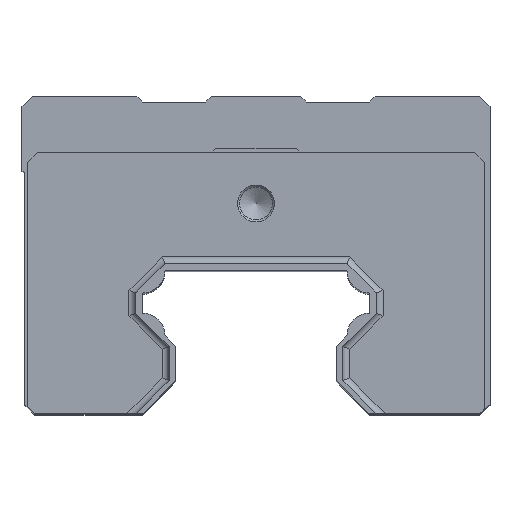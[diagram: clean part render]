
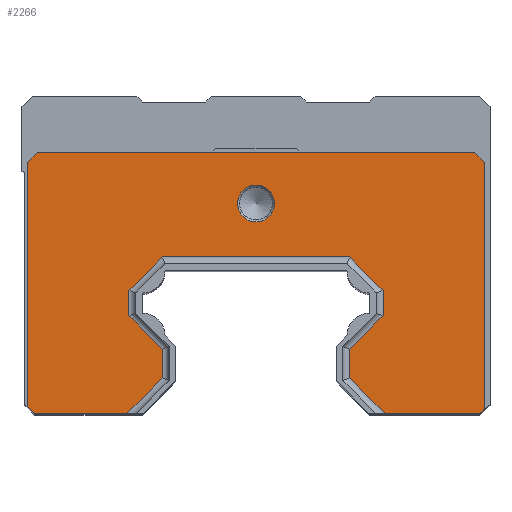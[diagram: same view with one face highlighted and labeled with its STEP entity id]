
A CAD part, top view. The second image highlights one B-rep face of the part: STEP entity #2266.
In plain terms, the highlighted planar face has unit normal (0, 0, 1).
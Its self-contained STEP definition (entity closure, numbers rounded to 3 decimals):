
#39=FACE_BOUND('',#342,.T.);
#45=PLANE('',#2410);
#224=FACE_OUTER_BOUND('',#341,.T.);
#341=EDGE_LOOP('',(#1630,#1631,#1632,#1633,#1634,#1635,#1636,#1637,#1638,
#1639,#1640,#1641,#1642,#1643,#1644,#1645,#1646,#1647,#1648,#1649));
#342=EDGE_LOOP('',(#1650));
#481=LINE('',#3258,#755);
#482=LINE('',#3260,#756);
#483=LINE('',#3262,#757);
#484=LINE('',#3264,#758);
#485=LINE('',#3266,#759);
#486=LINE('',#3268,#760);
#487=LINE('',#3270,#761);
#488=LINE('',#3272,#762);
#489=LINE('',#3274,#763);
#490=LINE('',#3276,#764);
#491=LINE('',#3278,#765);
#492=LINE('',#3280,#766);
#493=LINE('',#3282,#767);
#494=LINE('',#3284,#768);
#495=LINE('',#3286,#769);
#496=LINE('',#3288,#770);
#497=LINE('',#3290,#771);
#498=LINE('',#3292,#772);
#499=LINE('',#3294,#773);
#500=LINE('',#3295,#774);
#755=VECTOR('',#2623,10.);
#756=VECTOR('',#2624,10.);
#757=VECTOR('',#2625,10.);
#758=VECTOR('',#2626,10.);
#759=VECTOR('',#2627,10.);
#760=VECTOR('',#2628,10.);
#761=VECTOR('',#2629,10.);
#762=VECTOR('',#2630,10.);
#763=VECTOR('',#2631,10.);
#764=VECTOR('',#2632,10.);
#765=VECTOR('',#2633,10.);
#766=VECTOR('',#2634,10.);
#767=VECTOR('',#2635,10.);
#768=VECTOR('',#2636,10.);
#769=VECTOR('',#2637,10.);
#770=VECTOR('',#2638,10.);
#771=VECTOR('',#2639,10.);
#772=VECTOR('',#2640,10.);
#773=VECTOR('',#2641,10.);
#774=VECTOR('',#2642,10.);
#1009=CIRCLE('',#2405,2.759);
#1061=VERTEX_POINT('',#3244);
#1065=VERTEX_POINT('',#3256);
#1066=VERTEX_POINT('',#3257);
#1067=VERTEX_POINT('',#3259);
#1068=VERTEX_POINT('',#3261);
#1069=VERTEX_POINT('',#3263);
#1070=VERTEX_POINT('',#3265);
#1071=VERTEX_POINT('',#3267);
#1072=VERTEX_POINT('',#3269);
#1073=VERTEX_POINT('',#3271);
#1074=VERTEX_POINT('',#3273);
#1075=VERTEX_POINT('',#3275);
#1076=VERTEX_POINT('',#3277);
#1077=VERTEX_POINT('',#3279);
#1078=VERTEX_POINT('',#3281);
#1079=VERTEX_POINT('',#3283);
#1080=VERTEX_POINT('',#3285);
#1081=VERTEX_POINT('',#3287);
#1082=VERTEX_POINT('',#3289);
#1083=VERTEX_POINT('',#3291);
#1084=VERTEX_POINT('',#3293);
#1285=EDGE_CURVE('',#1061,#1061,#1009,.T.);
#1291=EDGE_CURVE('',#1065,#1066,#481,.T.);
#1292=EDGE_CURVE('',#1065,#1067,#482,.T.);
#1293=EDGE_CURVE('',#1067,#1068,#483,.T.);
#1294=EDGE_CURVE('',#1068,#1069,#484,.T.);
#1295=EDGE_CURVE('',#1069,#1070,#485,.T.);
#1296=EDGE_CURVE('',#1070,#1071,#486,.T.);
#1297=EDGE_CURVE('',#1071,#1072,#487,.T.);
#1298=EDGE_CURVE('',#1072,#1073,#488,.T.);
#1299=EDGE_CURVE('',#1073,#1074,#489,.T.);
#1300=EDGE_CURVE('',#1074,#1075,#490,.T.);
#1301=EDGE_CURVE('',#1076,#1075,#491,.T.);
#1302=EDGE_CURVE('',#1077,#1076,#492,.T.);
#1303=EDGE_CURVE('',#1078,#1077,#493,.T.);
#1304=EDGE_CURVE('',#1079,#1078,#494,.T.);
#1305=EDGE_CURVE('',#1080,#1079,#495,.T.);
#1306=EDGE_CURVE('',#1081,#1080,#496,.T.);
#1307=EDGE_CURVE('',#1082,#1081,#497,.T.);
#1308=EDGE_CURVE('',#1083,#1082,#498,.T.);
#1309=EDGE_CURVE('',#1084,#1083,#499,.T.);
#1310=EDGE_CURVE('',#1066,#1084,#500,.T.);
#1630=ORIENTED_EDGE('',*,*,#1291,.F.);
#1631=ORIENTED_EDGE('',*,*,#1292,.T.);
#1632=ORIENTED_EDGE('',*,*,#1293,.T.);
#1633=ORIENTED_EDGE('',*,*,#1294,.T.);
#1634=ORIENTED_EDGE('',*,*,#1295,.T.);
#1635=ORIENTED_EDGE('',*,*,#1296,.T.);
#1636=ORIENTED_EDGE('',*,*,#1297,.T.);
#1637=ORIENTED_EDGE('',*,*,#1298,.T.);
#1638=ORIENTED_EDGE('',*,*,#1299,.T.);
#1639=ORIENTED_EDGE('',*,*,#1300,.T.);
#1640=ORIENTED_EDGE('',*,*,#1301,.F.);
#1641=ORIENTED_EDGE('',*,*,#1302,.F.);
#1642=ORIENTED_EDGE('',*,*,#1303,.F.);
#1643=ORIENTED_EDGE('',*,*,#1304,.F.);
#1644=ORIENTED_EDGE('',*,*,#1305,.F.);
#1645=ORIENTED_EDGE('',*,*,#1306,.F.);
#1646=ORIENTED_EDGE('',*,*,#1307,.F.);
#1647=ORIENTED_EDGE('',*,*,#1308,.F.);
#1648=ORIENTED_EDGE('',*,*,#1309,.F.);
#1649=ORIENTED_EDGE('',*,*,#1310,.F.);
#1650=ORIENTED_EDGE('',*,*,#1285,.F.);
#2266=ADVANCED_FACE('',(#224,#39),#45,.T.);
#2405=AXIS2_PLACEMENT_3D('',#3245,#2609,#2610);
#2410=AXIS2_PLACEMENT_3D('',#3255,#2621,#2622);
#2609=DIRECTION('center_axis',(0.,0.,1.));
#2610=DIRECTION('ref_axis',(-1.,0.,0.));
#2621=DIRECTION('center_axis',(0.,0.,1.));
#2622=DIRECTION('ref_axis',(1.,0.,0.));
#2623=DIRECTION('',(-0.707,0.707,0.));
#2624=DIRECTION('',(1.,0.,0.));
#2625=DIRECTION('',(0.707,0.707,0.));
#2626=DIRECTION('',(0.,1.,0.));
#2627=DIRECTION('',(-0.707,0.707,0.));
#2628=DIRECTION('',(-1.,0.,0.));
#2629=DIRECTION('',(-0.707,-0.707,0.));
#2630=DIRECTION('',(0.,-1.,0.));
#2631=DIRECTION('',(0.707,-0.707,0.));
#2632=DIRECTION('',(1.,0.,0.));
#2633=DIRECTION('',(-0.707,-0.707,0.));
#2634=DIRECTION('',(0.,-1.,0.));
#2635=DIRECTION('',(0.707,-0.707,0.));
#2636=DIRECTION('',(0.,-1.,0.));
#2637=DIRECTION('',(-0.707,-0.707,0.));
#2638=DIRECTION('',(-1.,0.,0.));
#2639=DIRECTION('',(-0.707,0.707,0.));
#2640=DIRECTION('',(0.,1.,0.));
#2641=DIRECTION('',(0.707,0.707,0.));
#2642=DIRECTION('',(0.,1.,0.));
#3244=CARTESIAN_POINT('',(2.759,39.,55.88));
#3245=CARTESIAN_POINT('Origin',(0.,39.,55.88));
#3255=CARTESIAN_POINT('Origin',(0.,27.1,55.88));
#3256=CARTESIAN_POINT('',(19.314,7.6,55.88));
#3257=CARTESIAN_POINT('',(14.,12.914,55.88));
#3258=CARTESIAN_POINT('',(6.807,20.107,55.88));
#3259=CARTESIAN_POINT('',(33.459,7.6,55.88));
#3260=CARTESIAN_POINT('',(16.9,7.6,55.88));
#3261=CARTESIAN_POINT('',(34.15,8.291,55.88));
#3262=CARTESIAN_POINT('',(33.459,7.6,55.88));
#3263=CARTESIAN_POINT('',(34.15,45.159,55.88));
#3264=CARTESIAN_POINT('',(34.15,8.291,55.88));
#3265=CARTESIAN_POINT('',(32.709,46.6,55.88));
#3266=CARTESIAN_POINT('',(34.15,45.159,55.88));
#3267=CARTESIAN_POINT('',(-32.709,46.6,55.88));
#3268=CARTESIAN_POINT('',(32.709,46.6,55.88));
#3269=CARTESIAN_POINT('',(-34.15,45.159,55.88));
#3270=CARTESIAN_POINT('',(-32.709,46.6,55.88));
#3271=CARTESIAN_POINT('',(-34.15,8.691,55.88));
#3272=CARTESIAN_POINT('',(-34.15,45.159,55.88));
#3273=CARTESIAN_POINT('',(-33.059,7.6,55.88));
#3274=CARTESIAN_POINT('',(-34.15,8.691,55.88));
#3275=CARTESIAN_POINT('',(-19.314,7.6,55.88));
#3276=CARTESIAN_POINT('',(-33.059,7.6,55.88));
#3277=CARTESIAN_POINT('',(-14.,12.914,55.88));
#3278=CARTESIAN_POINT('',(-9.257,17.657,55.88));
#3279=CARTESIAN_POINT('',(-14.,17.186,55.88));
#3280=CARTESIAN_POINT('',(-14.,19.8,55.88));
#3281=CARTESIAN_POINT('',(-19.,22.186,55.88));
#3282=CARTESIAN_POINT('',(-12.832,16.018,55.88));
#3283=CARTESIAN_POINT('',(-19.,26.014,55.88));
#3284=CARTESIAN_POINT('',(-19.,24.85,55.88));
#3285=CARTESIAN_POINT('',(-14.014,31.,55.88));
#3286=CARTESIAN_POINT('',(-13.832,31.182,55.88));
#3287=CARTESIAN_POINT('',(14.014,31.,55.88));
#3288=CARTESIAN_POINT('',(-6.8,31.,55.88));
#3289=CARTESIAN_POINT('',(19.,26.014,55.88));
#3290=CARTESIAN_POINT('',(11.632,33.382,55.88));
#3291=CARTESIAN_POINT('',(19.,22.186,55.88));
#3292=CARTESIAN_POINT('',(19.,26.35,55.88));
#3293=CARTESIAN_POINT('',(14.,17.186,55.88));
#3294=CARTESIAN_POINT('',(15.332,18.518,55.88));
#3295=CARTESIAN_POINT('',(14.,22.35,55.88));
